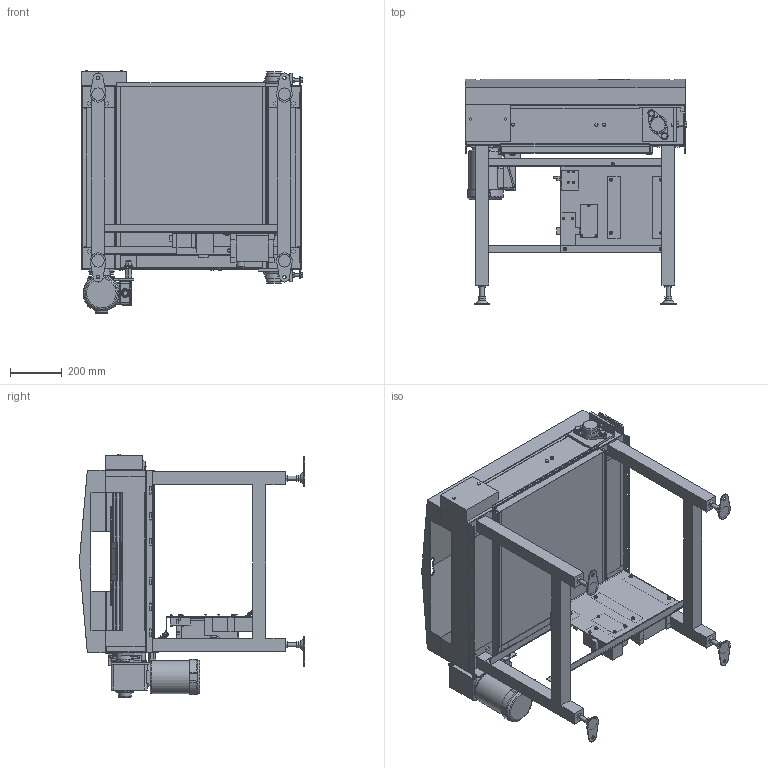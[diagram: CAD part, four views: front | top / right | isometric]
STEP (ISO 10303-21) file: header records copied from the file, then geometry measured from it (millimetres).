
FILE_DESCRIPTION( (''), '2;1');
FILE_NAME ('WEB-SLS-H-340-3-150-150-R-IVH-7.5.stp','2026-08-20T08:49:09',(''),(''),'spGate 21.9.5 (****-****-****-****)','','');
FILE_SCHEMA (('AUTOMOTIVE_DESIGN'));
Length unit declared in the file: millimetre
Products named in the file (79): WEB-SLS-H-340-3-150-150-R-IVH-7.5; TEMP_X_T-prt0; TEMP_X_T-prt1; TEMP_X_T-prt2; TEMP_X_T-prt3; TEMP_X_T-prt4; TEMP_X_T-prt5; TEMP_X_T-prt6; TEMP_X_T-prt7; TEMP_X_T-prt8; TEMP_X_T-prt9; TEMP_X_T-prt10; TEMP_X_T-prt11; TEMP_X_T-prt12; TEMP_X_T-prt13; TEMP_X_T-prt14; TEMP_X_T-prt15; TEMP_X_T-prt16; TEMP_X_T-prt17; TEMP_X_T-prt18; TEMP_X_T-prt19; TEMP_X_T-prt20; TEMP_X_T-prt21; TEMP_X_T-prt22; TEMP_X_T-prt23; TEMP_X_T-prt24; TEMP_X_T-prt25; TEMP_X_T-prt26; TEMP_X_T-prt27; TEMP_X_T-prt28; TEMP_X_T-prt29; TEMP_X_T-prt30; TEMP_X_T-prt31; TEMP_X_T-prt32; TEMP_X_T-prt33; TEMP_X_T-prt34; TEMP_X_T-prt35; TEMP_X_T-prt36; TEMP_X_T-prt37; TEMP_X_T-prt38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
Assembly tree (78 placements, depth 2):
  WEB-SLS-H-340-3-150-150-R-IVH-7.5
    TEMP_X_T-prt0
    TEMP_X_T-prt1
    TEMP_X_T-prt2
    TEMP_X_T-prt3
    TEMP_X_T-prt4
    TEMP_X_T-prt5
    TEMP_X_T-prt6
    TEMP_X_T-prt7
    TEMP_X_T-prt8
    TEMP_X_T-prt9
    TEMP_X_T-prt10
    TEMP_X_T-prt11
    TEMP_X_T-prt12
    TEMP_X_T-prt13
    TEMP_X_T-prt14
    TEMP_X_T-prt15
    TEMP_X_T-prt16
    TEMP_X_T-prt17
    TEMP_X_T-prt18
    TEMP_X_T-prt19
    TEMP_X_T-prt20
    TEMP_X_T-prt21
    TEMP_X_T-prt22
    TEMP_X_T-prt23
    TEMP_X_T-prt24
    TEMP_X_T-prt25
    TEMP_X_T-prt26
    TEMP_X_T-prt27
    TEMP_X_T-prt28
    TEMP_X_T-prt29
    TEMP_X_T-prt30
    TEMP_X_T-prt31
    TEMP_X_T-prt32
    TEMP_X_T-prt33
    TEMP_X_T-prt34
    TEMP_X_T-prt35
    TEMP_X_T-prt36
    TEMP_X_T-prt37
    TEMP_X_T-prt38
    TEMP_X_T-prt39
    TEMP_X_T-prt40
    TEMP_X_T-prt41
    TEMP_X_T-prt42
    TEMP_X_T-prt43
    TEMP_X_T-prt44
    TEMP_X_T-prt45
    TEMP_X_T-prt46
    TEMP_X_T-prt47
    TEMP_X_T-prt48
    TEMP_X_T-prt49
    TEMP_X_T-prt50
    TEMP_X_T-prt51
    TEMP_X_T-prt52
    TEMP_X_T-prt53
    TEMP_X_T-prt54
    TEMP_X_T-prt55
    TEMP_X_T-prt56
    TEMP_X_T-prt57
    TEMP_X_T-prt58
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Bounding box: 856 x 870.6 x 939.5 mm (x, y, z)
Volume: 47359759.4 mm3; surface area: 9002944.2 mm2
Topology: 78 solids, 78 shells, 2579 faces, 6798 edges, 4395 vertices
Faces by surface type: plane 1974, cylinder 486, bspline 115, sphere 4
Full cylindrical faces by diameter (mm): 4 x14, 4.15 x1, 5 x4, 6 x14, 8 x6, 8.376 x4, 8.5 x6, 9 x4, 9.2 x5, 10.5 x4, 11 x4, 11.8 x4, 12 x2, 12.2 x18, 12.5 x21, 13 x8, 14 x8, 15.4 x1, 16 x16, 18 x1, 20 x1, 21 x6, 22.2 x1, 23 x1, 24 x1, 25 x1, 28 x1, 30 x1, 30.5 x1, 34 x1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
Entity records: 138346 total; most frequent: CARTESIAN_POINT 17685, ORIENTED_EDGE 13588, DIRECTION 13049, COLOUR_RGB 9451, PRESENTATION_STYLE_ASSIGNMENT 9451, STYLED_ITEM 9451, EDGE_CURVE 6794, DRAUGHTING_PRE_DEFINED_CURVE_FONT 6794
